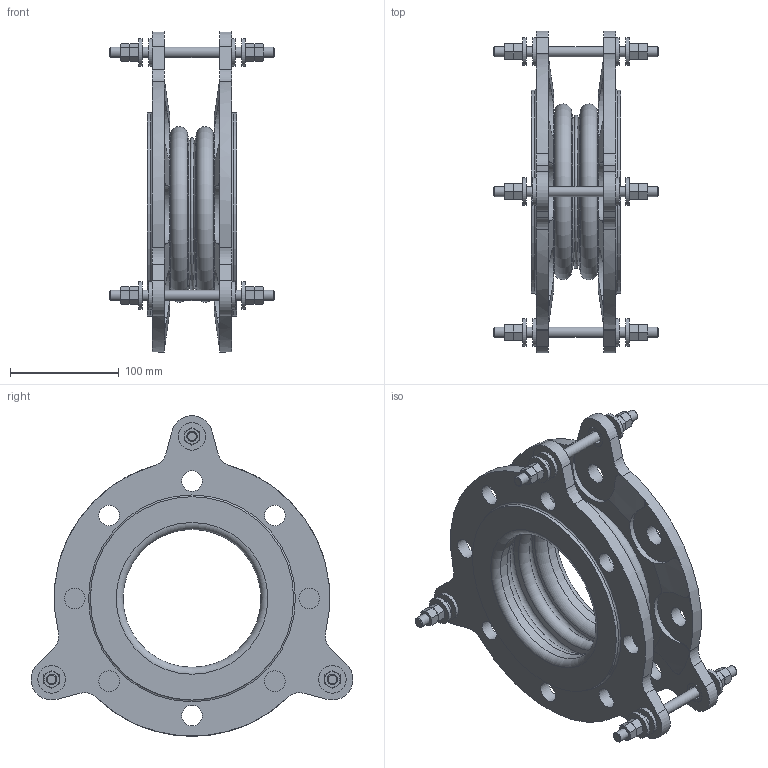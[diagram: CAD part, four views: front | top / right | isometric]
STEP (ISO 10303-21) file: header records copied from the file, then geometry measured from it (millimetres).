
FILE_DESCRIPTION(/* description */ (''),/* implementation_level */ '2;1');
FILE_NAME(/* name */ 'C:\Users\rramoutar\Desktop\802\802 5IDx3.25FF.stp',/* time_stamp */ '2016-04-24T12:01:48-04:00',/* author */ ('rramoutar'),/* organization */ ('Mason Industries Inc.'),/* preprocessor_version */ 'ST-DEVELOPER v15.6',/* originating_system */ 'Autodesk Inventor 2015',/* authorisation */ '');
FILE_SCHEMA (('CONFIG_CONTROL_DESIGN'));
Length unit declared in the file: inch
Products named in the file (1): 802 5IDx3.25FF
Bounding box: 152.4 x 296.42 x 295.2 mm (x, y, z)
Volume: 1334699.3 mm3; surface area: 356395.1 mm2
Topology: 5 solids, 5 shells, 520 faces, 1157 edges, 693 vertices
Faces by surface type: plane 184, cone 174, cylinder 141, torus 21
Full cylindrical faces by diameter (mm): 9.525 x9, 11.112 x6, 13.097 x6, 18.653 x6, 19.05 x22, 25.4 x12, 127 x2, 133.35 x2, 134.938 x2, 187.325 x2
Entity records: 14572 total; most frequent: CARTESIAN_POINT 3632, DIRECTION 2142, ORIENTED_EDGE 2096, EDGE_CURVE 1048, AXIS2_PLACEMENT_3D 957, EDGE_LOOP 717, VERTEX_POINT 687, FACE_OUTER_BOUND 520
